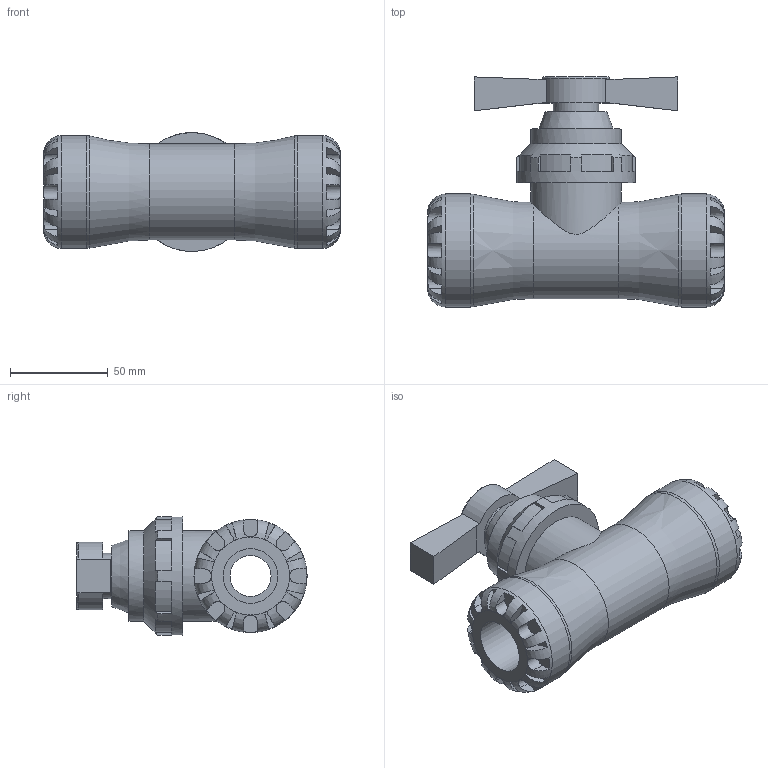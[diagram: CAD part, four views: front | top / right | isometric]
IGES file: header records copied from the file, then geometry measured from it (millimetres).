
Global section: file name: 0341C0032028.ipt; native system: Autodesk Inventor 2015; preprocessor: unknown; author: KIM; date: 20170212.115616; units: millimetre
Bounding box: 152 x 118 x 60.87 mm (x, y, z)
Volume: 359929.9 mm3; surface area: 61962 mm2
Topology: 1 solids, 1 shells, 204 faces, 544 edges, 348 vertices
Faces by surface type: plane 143, cylinder 32, revolution 27, cone 2
Full cylindrical faces by diameter (mm): 23.2 x1, 34.8 x1, 46.4 x2, 58 x2, 60.9 x1
